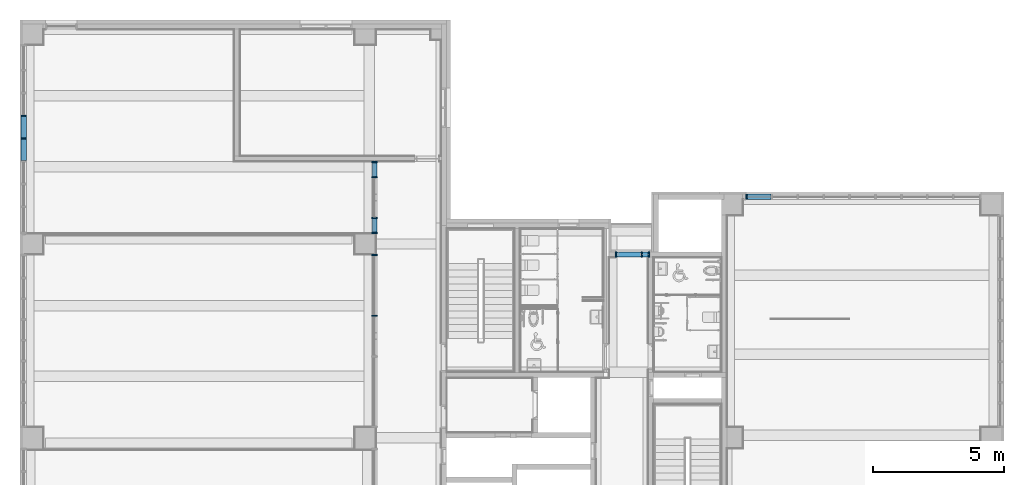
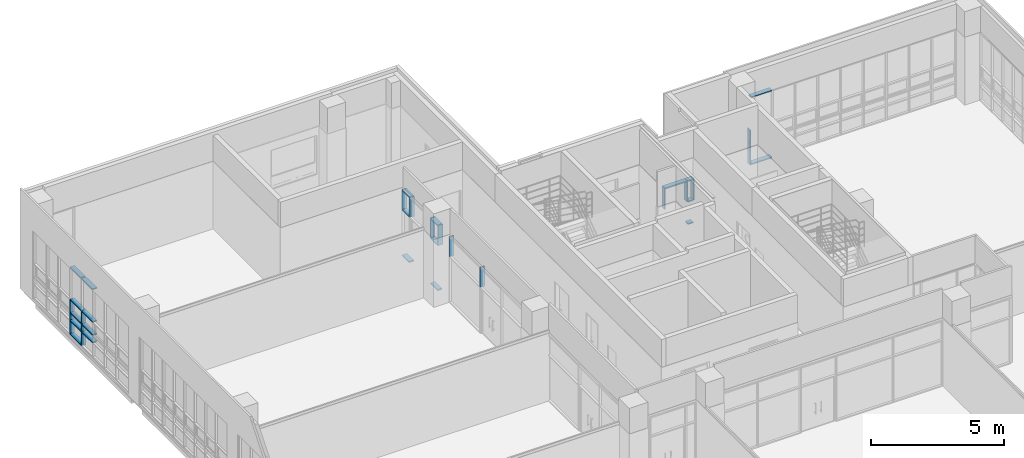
# One storey, part 21 of 74: 39 members, 5 elements without a shape of their own.
"""IFC2X3 building model written with IfcOpenShell, lengths in millimetres."""

from ifc_helpers import new_model, entity, si_unit, converted_unit, derived_unit, direction, frame, origin, origin_2d_with_axis, place, context, subcontext, project, spatial, rectangle, extrude, source, transform, mapped, material, type_object, type_shapes, element, aggregate, save


model = new_model("IFC2X3")

# Units and contexts
model_context = context("Model", 3, precision=0.01, world=origin(), true_north=direction((6.123031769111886e-17, 1.0)))
body_context = subcontext(model_context, "Body", "Model", "MODEL_VIEW")
ifc_project = project(units=[si_unit("LENGTHUNIT", "METRE", prefix="MILLI"), si_unit("AREAUNIT", "SQUARE_METRE"), si_unit("VOLUMEUNIT", "CUBIC_METRE"), converted_unit("PLANEANGLEUNIT", "DEGREE", entity("IfcRatioMeasure", 0.017453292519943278), si_unit("PLANEANGLEUNIT", "RADIAN"), dimensions=[0, 0, 0, 0, 0, 0, 0]), si_unit("MASSUNIT", "GRAM", prefix="KILO"), derived_unit("MASSDENSITYUNIT", [(si_unit("MASSUNIT", "GRAM", prefix="KILO"), 1), (si_unit("LENGTHUNIT", "METRE"), -3)]), derived_unit("MOMENTOFINERTIAUNIT", [(si_unit("LENGTHUNIT", "METRE"), 4)]), si_unit("TIMEUNIT", "SECOND"), si_unit("FREQUENCYUNIT", "HERTZ"), si_unit("THERMODYNAMICTEMPERATUREUNIT", "DEGREE_CELSIUS"), derived_unit("THERMALTRANSMITTANCEUNIT", [(si_unit("MASSUNIT", "GRAM", prefix="KILO"), 1), (si_unit("THERMODYNAMICTEMPERATUREUNIT", "KELVIN"), -1), (si_unit("TIMEUNIT", "SECOND"), -3)]), derived_unit("VOLUMETRICFLOWRATEUNIT", [(si_unit("LENGTHUNIT", "METRE"), 3), (si_unit("TIMEUNIT", "SECOND"), -1)]), derived_unit("MASSFLOWRATEUNIT", [(si_unit("MASSUNIT", "GRAM", prefix="KILO"), 1), (si_unit("TIMEUNIT", "SECOND"), -1)]), derived_unit("ROTATIONALFREQUENCYUNIT", [(si_unit("TIMEUNIT", "SECOND"), -1)]), si_unit("ELECTRICCURRENTUNIT", "AMPERE"), si_unit("ELECTRICVOLTAGEUNIT", "VOLT"), si_unit("POWERUNIT", "WATT"), si_unit("FORCEUNIT", "NEWTON", prefix="KILO"), si_unit("ILLUMINANCEUNIT", "LUX"), si_unit("LUMINOUSFLUXUNIT", "LUMEN"), si_unit("LUMINOUSINTENSITYUNIT", "CANDELA"), derived_unit("USERDEFINED", [(si_unit("MASSUNIT", "GRAM", prefix="KILO"), -1), (si_unit("LENGTHUNIT", "METRE"), -2), (si_unit("TIMEUNIT", "SECOND"), 3), (si_unit("LUMINOUSFLUXUNIT", "LUMEN"), 1)]), derived_unit("SOUNDPOWERUNIT", [(si_unit("MASSUNIT", "GRAM", prefix="KILO"), 1), (si_unit("LENGTHUNIT", "METRE"), 2), (si_unit("TIMEUNIT", "SECOND"), -3)]), derived_unit("SOUNDPRESSUREUNIT", [(si_unit("MASSUNIT", "GRAM", prefix="KILO"), 1), (si_unit("LENGTHUNIT", "METRE"), -1), (si_unit("TIMEUNIT", "SECOND"), -2)]), derived_unit("LINEARVELOCITYUNIT", [(si_unit("LENGTHUNIT", "METRE"), 1), (si_unit("TIMEUNIT", "SECOND"), -1)]), si_unit("PRESSUREUNIT", "PASCAL"), derived_unit("USERDEFINED", [(si_unit("LENGTHUNIT", "METRE"), -2), (si_unit("MASSUNIT", "GRAM", prefix="KILO"), 1), (si_unit("TIMEUNIT", "SECOND"), -2)]), derived_unit("LINEARFORCEUNIT", [(si_unit("MASSUNIT", "GRAM", prefix="KILO"), 1), (si_unit("LENGTHUNIT", "METRE"), 1), (si_unit("TIMEUNIT", "SECOND"), -2), (si_unit("LENGTHUNIT", "METRE"), -1)]), derived_unit("PLANARFORCEUNIT", [(si_unit("MASSUNIT", "GRAM", prefix="KILO"), 1), (si_unit("LENGTHUNIT", "METRE"), 1), (si_unit("TIMEUNIT", "SECOND"), -2), (si_unit("LENGTHUNIT", "METRE"), -2)])], contexts=[model_context])

# Site, building, storey
site_placement = place(None, frame((-14167.972527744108, -657.2125860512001, 0.0)))
site = spatial("IfcSite", under=ifc_project, at=site_placement, Name="Default", CompositionType="ELEMENT")
building_placement = place(site_placement, origin())
building = spatial("IfcBuilding", under=site, at=building_placement, Name="Sample Building", CompositionType="ELEMENT")
storey_placement = place(building_placement, frame((0.0, 0.0, 4800.0)))
storey = spatial("IfcBuildingStorey", under=building, at=storey_placement, Name="지상 2층", CompositionType="ELEMENT", Elevation=4800.000000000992)

# Curtain wall, members
curtain_wall_type = type_object("IfcCurtainWallType", Name="커튼월:CW112-스테인리스 스틸 커튼월", PredefinedType="NOTDEFINED")
curtain_wall_1_placement = place(storey_placement, frame((0.0, 0.0, -4800.0)))
curtain_wall_1 = element("IfcCurtainWall", 1, at=curtain_wall_1_placement, inside=storey, type_object=curtain_wall_type, Name="커튼월:CW112-스테인리스 스틸 커튼월", ObjectType="커튼월:CW112-스테인리스 스틸 커튼월")
ifc_material = material(Name="<Unnamed>")
member_type_1 = type_object("IfcMemberType", Name="직사각형 멀리언:CW200-직사각형 멀리언 50x200mm", PredefinedType="MULLION", material=ifc_material)
shared_shape_1 = source(origin(), body_context, "Body", "SweptSolid", [
    extrude(rectangle(XDim=200.0, YDim=50.0, at=origin_2d_with_axis()), frame((-25.0, 0.0, -925.0), z_axis=(0.0, 0.0, 1.0), x_axis=(0.0, -1.0, 0.0)), (0.0, 0.0, 1.0), 924.9999999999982),
])
type_shapes(member_type_1, [shared_shape_1])
member_1_placement = place(curtain_wall_1_placement, frame((37692.963798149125, 26957.212295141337, 6900.0), z_axis=(1.0, 0.0, 0.0), x_axis=(0.0, 0.0, 1.0)))
member_1 = element("IfcMember", 2, at=member_1_placement, type_object=member_type_1, material=ifc_material, Name="직사각형 멀리언:CW200-직사각형 멀리언 50x200mm", ObjectType="직사각형 멀리언:CW200-직사각형 멀리언 50x200mm", context=body_context, shape_type="MappedRepresentation", body=[
    mapped(shared_shape_1, transform((0.0, 0.0, 0.0), scale=1.0)),
])
member_type_2 = type_object("IfcMemberType", Name="직사각형 멀리언:CW200-직사각형 멀리언 50x200mm", PredefinedType="MULLION", material=ifc_material)
shared_shape_2 = source(origin(), body_context, "Body", "SweptSolid", [
    extrude(rectangle(XDim=200.0, YDim=50.0, at=origin_2d_with_axis()), frame((-25.0, 0.0, -970.0), z_axis=(0.0, 0.0, 1.0), x_axis=(0.0, -1.0, 0.0)), (0.0, 0.0, 1.0), 970.0000000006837),
])
type_shapes(member_type_2, [shared_shape_2])
member_2_placement = place(curtain_wall_1_placement, frame((36717.963798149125, 26957.21229514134, 6900.0), z_axis=(0.0, 0.0, 1.0), x_axis=(-1.0, 0.0, 0.0)))
member_2 = element("IfcMember", 3, at=member_2_placement, type_object=member_type_2, material=ifc_material, Name="직사각형 멀리언:CW200-직사각형 멀리언 50x200mm", ObjectType="직사각형 멀리언:CW200-직사각형 멀리언 50x200mm", context=body_context, shape_type="MappedRepresentation", body=[
    mapped(shared_shape_2, transform((0.0, 0.0, 0.0), scale=1.0)),
])
member_type_3 = type_object("IfcMemberType", Name="직사각형 멀리언:CW200-직사각형 멀리언 50x200mm", PredefinedType="MULLION", material=ifc_material)
shared_shape_3 = source(origin(), body_context, "Body", "SweptSolid", [
    extrude(rectangle(XDim=200.0, YDim=50.0, at=origin_2d_with_axis()), frame((-25.0, 0.0, -970.0), z_axis=(0.0, 0.0, 1.0), x_axis=(0.0, -1.0, 0.0)), (0.0, 0.0, 1.0), 970.0000000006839),
])
type_shapes(member_type_3, [shared_shape_3])
member_3_placement = place(curtain_wall_1_placement, frame((38017.97249112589, 26957.212295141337, 5930.0), z_axis=(0.0, 0.0, -1.0), x_axis=(1.0, 0.0, 0.0)))
member_3 = element("IfcMember", 4, at=member_3_placement, type_object=member_type_3, material=ifc_material, Name="직사각형 멀리언:CW200-직사각형 멀리언 50x200mm", ObjectType="직사각형 멀리언:CW200-직사각형 멀리언 50x200mm", context=body_context, shape_type="MappedRepresentation", body=[
    mapped(shared_shape_3, transform((0.0, 0.0, 0.0), scale=1.0)),
])
member_type_4 = type_object("IfcMemberType", Name="직사각형 멀리언:CW200-직사각형 멀리언 50x200mm", PredefinedType="MULLION", material=ifc_material)
shared_shape_4 = source(origin(), body_context, "Body", "SweptSolid", [
    extrude(rectangle(XDim=200.0, YDim=50.0, at=origin_2d_with_axis()), frame((0.0, 0.0, -970.0), z_axis=(0.0, 0.0, 1.0), x_axis=(0.0, -1.0, 0.0)), (0.0, 0.0, 1.0), 970.0000000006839),
])
type_shapes(member_type_4, [shared_shape_4])
member_4_placement = place(curtain_wall_1_placement, frame((37717.963798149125, 26957.212295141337, 5930.0), z_axis=(0.0, 0.0, -1.0), x_axis=(1.0, 0.0, 0.0)))
member_4 = element("IfcMember", 5, at=member_4_placement, type_object=member_type_4, material=ifc_material, Name="직사각형 멀리언:CW200-직사각형 멀리언 50x200mm", ObjectType="직사각형 멀리언:CW200-직사각형 멀리언 50x200mm", context=body_context, shape_type="MappedRepresentation", body=[
    mapped(shared_shape_4, transform((0.0, 0.0, 0.0), scale=1.0)),
])

curtain_wall_2_placement = place(storey_placement, frame((0.0, 0.0, -4800.0)))
curtain_wall_2 = element("IfcCurtainWall", 6, at=curtain_wall_2_placement, inside=storey, type_object=curtain_wall_type, Name="커튼월:CW112-스테인리스 스틸 커튼월", ObjectType="커튼월:CW112-스테인리스 스틸 커튼월")
member_type_5 = type_object("IfcMemberType", Name="직사각형 멀리언:CW200-직사각형 멀리언 50x200mm", PredefinedType="MULLION", material=ifc_material)
shared_shape_5 = source(origin(), body_context, "Body", "SweptSolid", [
    extrude(rectangle(XDim=200.0, YDim=50.0, at=origin_2d_with_axis()), frame((-25.0, 0.0, -818.7500000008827), z_axis=(0.0, 0.0, 1.0), x_axis=(0.0, -1.0, 0.0)), (0.0, 0.0, 1.0), 818.7500000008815),
])
type_shapes(member_type_5, [shared_shape_5])
member_5_placement = place(curtain_wall_2_placement, frame((14130.455105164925, 32225.962275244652, 4880.0), z_axis=(0.0, 1.0, 0.0), x_axis=(0.0, 0.0, -1.0)))
member_5 = element("IfcMember", 7, at=member_5_placement, type_object=member_type_5, material=ifc_material, Name="직사각형 멀리언:CW200-직사각형 멀리언 50x200mm", ObjectType="직사각형 멀리언:CW200-직사각형 멀리언 50x200mm", context=body_context, shape_type="MappedRepresentation", body=[
    mapped(shared_shape_5, transform((0.0, 0.0, 0.0), scale=1.0)),
])
member_type_6 = type_object("IfcMemberType", Name="직사각형 멀리언:CW200-직사각형 멀리언 50x200mm", PredefinedType="MULLION", material=ifc_material)
shared_shape_6 = source(origin(), body_context, "Body", "SweptSolid", [
    extrude(rectangle(XDim=200.0, YDim=50.0, at=origin_2d_with_axis()), frame((0.0, 0.0, -650.0), z_axis=(0.0, 0.0, 1.0), x_axis=(0.0, -1.0, 0.0)), (0.0, 0.0, 1.0), 650.0000000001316),
])
type_shapes(member_type_6, [shared_shape_6])
member_6_placement = place(curtain_wall_2_placement, frame((14130.455105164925, 32250.96227524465, 4880.0), z_axis=(0.0, 0.0, -1.0), x_axis=(0.0, -1.0, 0.0)))
member_6 = element("IfcMember", 8, at=member_6_placement, type_object=member_type_6, material=ifc_material, Name="직사각형 멀리언:CW200-직사각형 멀리언 50x200mm", ObjectType="직사각형 멀리언:CW200-직사각형 멀리언 50x200mm", context=body_context, shape_type="MappedRepresentation", body=[
    mapped(shared_shape_6, transform((0.0, 0.0, 0.0), scale=1.0)),
])
member_7_placement = place(curtain_wall_2_placement, frame((14130.455105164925, 31382.212275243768, 4880.0), z_axis=(0.0, 0.0, -1.0), x_axis=(0.0, -1.0, 0.0)))
member_7 = element("IfcMember", 9, at=member_7_placement, type_object=member_type_6, material=ifc_material, Name="직사각형 멀리언:CW200-직사각형 멀리언 50x200mm", ObjectType="직사각형 멀리언:CW200-직사각형 멀리언 50x200mm", context=body_context, shape_type="MappedRepresentation", body=[
    mapped(shared_shape_6, transform((0.0, 0.0, 0.0), scale=1.0)),
])
member_type_7 = type_object("IfcMemberType", Name="직사각형 멀리언:CW200-직사각형 멀리언 50x200mm", PredefinedType="MULLION", material=ifc_material)
shared_shape_7 = source(origin(), body_context, "Body", "SweptSolid", [
    extrude(rectangle(XDim=200.0, YDim=50.0, at=origin_2d_with_axis()), frame((-25.0, 0.0, -818.7500000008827), z_axis=(0.0, 0.0, 1.0), x_axis=(0.0, -1.0, 0.0)), (0.0, 0.0, 1.0), 818.7500000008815),
])
type_shapes(member_type_7, [shared_shape_7])
member_8_placement = place(curtain_wall_2_placement, frame((14130.455105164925, 31407.212275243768, 8000.0), z_axis=(0.0, -1.0, 0.0), x_axis=(0.0, 0.0, 1.0)))
member_8 = element("IfcMember", 10, at=member_8_placement, type_object=member_type_7, material=ifc_material, Name="직사각형 멀리언:CW200-직사각형 멀리언 50x200mm", ObjectType="직사각형 멀리언:CW200-직사각형 멀리언 50x200mm", context=body_context, shape_type="MappedRepresentation", body=[
    mapped(shared_shape_7, transform((0.0, 0.0, 0.0), scale=1.0)),
])
member_9_placement = place(curtain_wall_2_placement, frame((14130.455105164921, 30538.462275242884, 8000.0), z_axis=(0.0, -1.0, 0.0), x_axis=(0.0, 0.0, 1.0)))
member_9 = element("IfcMember", 11, at=member_9_placement, type_object=member_type_7, material=ifc_material, Name="직사각형 멀리언:CW200-직사각형 멀리언 50x200mm", ObjectType="직사각형 멀리언:CW200-직사각형 멀리언 50x200mm", context=body_context, shape_type="MappedRepresentation", body=[
    mapped(shared_shape_7, transform((0.0, 0.0, 0.0), scale=1.0)),
])
member_type_8 = type_object("IfcMemberType", Name="직사각형 멀리언:CW200-직사각형 멀리언 50x200mm", PredefinedType="MULLION", material=ifc_material)
shared_shape_8 = source(origin(), body_context, "Body", "SweptSolid", [
    extrude(rectangle(XDim=200.0, YDim=50.0, at=origin_2d_with_axis()), frame((0.0, 0.0, -818.7500000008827), z_axis=(0.0, 0.0, 1.0), x_axis=(0.0, -1.0, 0.0)), (0.0, 0.0, 1.0), 818.7500000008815),
])
type_shapes(member_type_8, [shared_shape_8])
member_10_placement = place(curtain_wall_2_placement, frame((14130.455105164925, 31407.212275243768, 5880.0), z_axis=(0.0, -1.0, 0.0), x_axis=(0.0, 0.0, 1.0)))
member_10 = element("IfcMember", 12, at=member_10_placement, type_object=member_type_8, material=ifc_material, Name="직사각형 멀리언:CW200-직사각형 멀리언 50x200mm", ObjectType="직사각형 멀리언:CW200-직사각형 멀리언 50x200mm", context=body_context, shape_type="MappedRepresentation", body=[
    mapped(shared_shape_8, transform((0.0, 0.0, 0.0), scale=1.0)),
])
member_11_placement = place(curtain_wall_2_placement, frame((14130.455105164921, 30538.462275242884, 5880.0), z_axis=(0.0, -1.0, 0.0), x_axis=(0.0, 0.0, 1.0)))
member_11 = element("IfcMember", 13, at=member_11_placement, type_object=member_type_8, material=ifc_material, Name="직사각형 멀리언:CW200-직사각형 멀리언 50x200mm", ObjectType="직사각형 멀리언:CW200-직사각형 멀리언 50x200mm", context=body_context, shape_type="MappedRepresentation", body=[
    mapped(shared_shape_8, transform((0.0, 0.0, 0.0), scale=1.0)),
])
member_12_placement = place(curtain_wall_2_placement, frame((14130.455105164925, 31407.212275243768, 6480.0), z_axis=(0.0, -1.0, 0.0), x_axis=(0.0, 0.0, 1.0)))
member_12 = element("IfcMember", 14, at=member_12_placement, type_object=member_type_8, material=ifc_material, Name="직사각형 멀리언:CW200-직사각형 멀리언 50x200mm", ObjectType="직사각형 멀리언:CW200-직사각형 멀리언 50x200mm", context=body_context, shape_type="MappedRepresentation", body=[
    mapped(shared_shape_8, transform((0.0, 0.0, 0.0), scale=1.0)),
])
member_13_placement = place(curtain_wall_2_placement, frame((14130.455105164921, 30538.462275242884, 6480.0), z_axis=(0.0, -1.0, 0.0), x_axis=(0.0, 0.0, 1.0)))
member_13 = element("IfcMember", 15, at=member_13_placement, type_object=member_type_8, material=ifc_material, Name="직사각형 멀리언:CW200-직사각형 멀리언 50x200mm", ObjectType="직사각형 멀리언:CW200-직사각형 멀리언 50x200mm", context=body_context, shape_type="MappedRepresentation", body=[
    mapped(shared_shape_8, transform((0.0, 0.0, 0.0), scale=1.0)),
])
member_14_placement = place(curtain_wall_2_placement, frame((14130.455105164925, 31407.212275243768, 5530.0), z_axis=(0.0, -1.0, 0.0), x_axis=(0.0, 0.0, 1.0)))
member_14 = element("IfcMember", 16, at=member_14_placement, type_object=member_type_8, material=ifc_material, Name="직사각형 멀리언:CW200-직사각형 멀리언 50x200mm", ObjectType="직사각형 멀리언:CW200-직사각형 멀리언 50x200mm", context=body_context, shape_type="MappedRepresentation", body=[
    mapped(shared_shape_8, transform((0.0, 0.0, 0.0), scale=1.0)),
])
member_15_placement = place(curtain_wall_2_placement, frame((14130.455105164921, 30538.462275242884, 5530.0), z_axis=(0.0, -1.0, 0.0), x_axis=(0.0, 0.0, 1.0)))
member_15 = element("IfcMember", 17, at=member_15_placement, type_object=member_type_8, material=ifc_material, Name="직사각형 멀리언:CW200-직사각형 멀리언 50x200mm", ObjectType="직사각형 멀리언:CW200-직사각형 멀리언 50x200mm", context=body_context, shape_type="MappedRepresentation", body=[
    mapped(shared_shape_8, transform((0.0, 0.0, 0.0), scale=1.0)),
])
member_type_9 = type_object("IfcMemberType", Name="직사각형 멀리언:CW200-직사각형 멀리언 50x200mm", PredefinedType="MULLION", material=ifc_material)
shared_shape_9 = source(origin(), body_context, "Body", "SweptSolid", [
    extrude(rectangle(XDim=200.0, YDim=50.0, at=origin_2d_with_axis()), frame((0.0, 0.0, -600.0), z_axis=(0.0, 0.0, 1.0), x_axis=(0.0, -1.0, 0.0)), (0.0, 0.0, 1.0), 600.0),
])
type_shapes(member_type_9, [shared_shape_9])
member_16_placement = place(curtain_wall_2_placement, frame((14130.455105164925, 32250.96227524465, 5880.0), z_axis=(0.0, 0.0, -1.0), x_axis=(0.0, -1.0, 0.0)))
member_16 = element("IfcMember", 18, at=member_16_placement, type_object=member_type_9, material=ifc_material, Name="직사각형 멀리언:CW200-직사각형 멀리언 50x200mm", ObjectType="직사각형 멀리언:CW200-직사각형 멀리언 50x200mm", context=body_context, shape_type="MappedRepresentation", body=[
    mapped(shared_shape_9, transform((0.0, 0.0, 0.0), scale=1.0)),
])
member_17_placement = place(curtain_wall_2_placement, frame((14130.455105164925, 31382.212275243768, 5880.0), z_axis=(0.0, 0.0, -1.0), x_axis=(0.0, -1.0, 0.0)))
member_17 = element("IfcMember", 19, at=member_17_placement, type_object=member_type_9, material=ifc_material, Name="직사각형 멀리언:CW200-직사각형 멀리언 50x200mm", ObjectType="직사각형 멀리언:CW200-직사각형 멀리언 50x200mm", context=body_context, shape_type="MappedRepresentation", body=[
    mapped(shared_shape_9, transform((0.0, 0.0, 0.0), scale=1.0)),
])
member_type_10 = type_object("IfcMemberType", Name="직사각형 멀리언:CW200-직사각형 멀리언 50x200mm", PredefinedType="MULLION", material=ifc_material)
shared_shape_10 = source(origin(), body_context, "Body", "SweptSolid", [
    extrude(rectangle(XDim=200.0, YDim=50.0, at=origin_2d_with_axis()), frame((0.0, 0.0, -350.0), z_axis=(0.0, 0.0, 1.0), x_axis=(0.0, -1.0, 0.0)), (0.0, 0.0, 1.0), 350.00000000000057),
])
type_shapes(member_type_10, [shared_shape_10])
member_18_placement = place(curtain_wall_2_placement, frame((14130.455105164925, 32250.96227524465, 5530.0), z_axis=(0.0, 0.0, -1.0), x_axis=(0.0, -1.0, 0.0)))
member_18 = element("IfcMember", 20, at=member_18_placement, type_object=member_type_10, material=ifc_material, Name="직사각형 멀리언:CW200-직사각형 멀리언 50x200mm", ObjectType="직사각형 멀리언:CW200-직사각형 멀리언 50x200mm", context=body_context, shape_type="MappedRepresentation", body=[
    mapped(shared_shape_10, transform((0.0, 0.0, 0.0), scale=1.0)),
])
member_19_placement = place(curtain_wall_2_placement, frame((14130.455105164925, 31382.212275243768, 5530.0), z_axis=(0.0, 0.0, -1.0), x_axis=(0.0, -1.0, 0.0)))
member_19 = element("IfcMember", 21, at=member_19_placement, type_object=member_type_10, material=ifc_material, Name="직사각형 멀리언:CW200-직사각형 멀리언 50x200mm", ObjectType="직사각형 멀리언:CW200-직사각형 멀리언 50x200mm", context=body_context, shape_type="MappedRepresentation", body=[
    mapped(shared_shape_10, transform((0.0, 0.0, 0.0), scale=1.0)),
])
aggregate(curtain_wall_2, [member_5, member_6, member_8, member_7, member_9, member_10, member_11, member_12, member_13, member_16, member_17, member_14, member_15, member_18, member_19])

curtain_wall_3_placement = place(storey_placement, frame((0.0, 0.0, -4800.0)))
curtain_wall_3 = element("IfcCurtainWall", 22, at=curtain_wall_3_placement, inside=storey, type_object=curtain_wall_type, Name="커튼월:CW112-스테인리스 스틸 커튼월", ObjectType="커튼월:CW112-스테인리스 스틸 커튼월")
member_type_11 = type_object("IfcMemberType", Name="직사각형 멀리언:CW200-직사각형 멀리언 50x200mm", PredefinedType="MULLION", material=ifc_material)
shared_shape_11 = source(origin(), body_context, "Body", "SweptSolid", [
    extrude(rectangle(XDim=200.0, YDim=50.0, at=origin_2d_with_axis()), frame((-25.0, 0.0, -650.0), z_axis=(0.0, 0.0, 1.0), x_axis=(0.0, -1.0, 0.0)), (0.0, 0.0, 1.0), 650.0000000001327),
])
type_shapes(member_type_11, [shared_shape_11])
member_20_placement = place(curtain_wall_3_placement, frame((41697.546658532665, 29157.212295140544, 4880.0), z_axis=(0.0, 0.0, -1.0), x_axis=(-1.0, 0.0, 0.0)))
member_20 = element("IfcMember", 23, at=member_20_placement, type_object=member_type_11, material=ifc_material, Name="직사각형 멀리언:CW200-직사각형 멀리언 50x200mm", ObjectType="직사각형 멀리언:CW200-직사각형 멀리언 50x200mm", context=body_context, shape_type="MappedRepresentation", body=[
    mapped(shared_shape_11, transform((0.0, 0.0, 0.0), scale=1.0)),
])
member_type_12 = type_object("IfcMemberType", Name="직사각형 멀리언:CW200-직사각형 멀리언 50x200mm", PredefinedType="MULLION", material=ifc_material)
shared_shape_12 = source(origin(), body_context, "Body", "SweptSolid", [
    extrude(rectangle(XDim=200.0, YDim=50.0, at=origin_2d_with_axis()), frame((-25.0, 0.0, -600.0), z_axis=(0.0, 0.0, 1.0), x_axis=(0.0, -1.0, 0.0)), (0.0, 0.0, 1.0), 600.0),
])
type_shapes(member_type_12, [shared_shape_12])
member_21_placement = place(curtain_wall_3_placement, frame((41697.546658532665, 29157.212295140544, 5880.0), z_axis=(0.0, 0.0, -1.0), x_axis=(-1.0, 0.0, 0.0)))
member_21 = element("IfcMember", 24, at=member_21_placement, type_object=member_type_12, material=ifc_material, Name="직사각형 멀리언:CW200-직사각형 멀리언 50x200mm", ObjectType="직사각형 멀리언:CW200-직사각형 멀리언 50x200mm", context=body_context, shape_type="MappedRepresentation", body=[
    mapped(shared_shape_12, transform((0.0, 0.0, 0.0), scale=1.0)),
])
member_type_13 = type_object("IfcMemberType", Name="직사각형 멀리언:CW200-직사각형 멀리언 50x200mm", PredefinedType="MULLION", material=ifc_material)
shared_shape_13 = source(origin(), body_context, "Body", "SweptSolid", [
    extrude(rectangle(XDim=200.0, YDim=50.0, at=origin_2d_with_axis()), frame((-25.0, 0.0, -350.0), z_axis=(0.0, 0.0, 1.0), x_axis=(0.0, -1.0, 0.0)), (0.0, 0.0, 1.0), 349.9999999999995),
])
type_shapes(member_type_13, [shared_shape_13])
member_22_placement = place(curtain_wall_3_placement, frame((41697.546658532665, 29157.212295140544, 5530.0), z_axis=(0.0, 0.0, -1.0), x_axis=(-1.0, 0.0, 0.0)))
member_22 = element("IfcMember", 25, at=member_22_placement, type_object=member_type_13, material=ifc_material, Name="직사각형 멀리언:CW200-직사각형 멀리언 50x200mm", ObjectType="직사각형 멀리언:CW200-직사각형 멀리언 50x200mm", context=body_context, shape_type="MappedRepresentation", body=[
    mapped(shared_shape_13, transform((0.0, 0.0, 0.0), scale=1.0)),
])
member_type_14 = type_object("IfcMemberType", Name="직사각형 멀리언:CW200-직사각형 멀리언 50x200mm", PredefinedType="MULLION", material=ifc_material)
shared_shape_14 = source(origin(), body_context, "Body", "SweptSolid", [
    extrude(rectangle(XDim=200.0, YDim=50.0, at=origin_2d_with_axis()), frame((-25.0, 0.0, -913.8888888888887), z_axis=(0.0, 0.0, 1.0), x_axis=(0.0, -1.0, 0.0)), (0.0, 0.0, 1.0), 913.8888888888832),
])
type_shapes(member_type_14, [shared_shape_14])
member_23_placement = place(curtain_wall_3_placement, frame((41747.546658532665, 29157.212295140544, 8000.0), z_axis=(-1.0, 0.0, 0.0), x_axis=(0.0, 0.0, 1.0)))
member_23 = element("IfcMember", 26, at=member_23_placement, type_object=member_type_14, material=ifc_material, Name="직사각형 멀리언:CW200-직사각형 멀리언 50x200mm", ObjectType="직사각형 멀리언:CW200-직사각형 멀리언 50x200mm", context=body_context, shape_type="MappedRepresentation", body=[
    mapped(shared_shape_14, transform((0.0, 0.0, 0.0), scale=1.0)),
])
member_type_15 = type_object("IfcMemberType", Name="직사각형 멀리언:CW200-직사각형 멀리언 50x200mm", PredefinedType="MULLION", material=ifc_material)
shared_shape_15 = source(origin(), body_context, "Body", "SweptSolid", [
    extrude(rectangle(XDim=200.0, YDim=50.0, at=origin_2d_with_axis()), frame((-25.0, 0.0, -913.888888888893), z_axis=(0.0, 0.0, 1.0), x_axis=(0.0, -1.0, 0.0)), (0.0, 0.0, 1.0), 913.888888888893),
])
type_shapes(member_type_15, [shared_shape_15])
member_24_placement = place(curtain_wall_3_placement, frame((42661.43554742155, 29157.21229514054, 4880.0), z_axis=(1.0, 0.0, 0.0), x_axis=(0.0, 0.0, -1.0)))
member_24 = element("IfcMember", 27, at=member_24_placement, type_object=member_type_15, material=ifc_material, Name="직사각형 멀리언:CW200-직사각형 멀리언 50x200mm", ObjectType="직사각형 멀리언:CW200-직사각형 멀리언 50x200mm", context=body_context, shape_type="MappedRepresentation", body=[
    mapped(shared_shape_15, transform((0.0, 0.0, 0.0), scale=1.0)),
])
aggregate(curtain_wall_3, [member_23, member_20, member_24, member_21, member_22])

curtain_wall_4_placement = place(storey_placement, frame((0.0, 0.0, -4800.0)))
curtain_wall_4 = element("IfcCurtainWall", 28, at=curtain_wall_4_placement, inside=storey, type_object=curtain_wall_type, Name="커튼월:CW112-스테인리스 스틸 커튼월", ObjectType="커튼월:CW112-스테인리스 스틸 커튼월")
member_type_16 = type_object("IfcMemberType", Name="직사각형 멀리언:CW200-직사각형 멀리언 50x200mm", PredefinedType="MULLION", material=ifc_material)
shared_shape_16 = source(origin(), body_context, "Body", "SweptSolid", [
    extrude(rectangle(XDim=200.0, YDim=50.0, at=origin_2d_with_axis()), frame((-25.0, 0.0, -520.0002780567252), z_axis=(0.0, 0.0, 1.0), x_axis=(0.0, -1.0, 0.0)), (0.0, 0.0, 1.0), 520.0002780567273),
])
type_shapes(member_type_16, [shared_shape_16])
member_25_placement = place(curtain_wall_4_placement, frame((27522.98031454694, 27807.212586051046, 7900.0), z_axis=(0.0, -1.0, 0.0), x_axis=(0.0, 0.0, 1.0)))
member_25 = element("IfcMember", 29, at=member_25_placement, type_object=member_type_16, material=ifc_material, Name="직사각형 멀리언:CW200-직사각형 멀리언 50x200mm", ObjectType="직사각형 멀리언:CW200-직사각형 멀리언 50x200mm", context=body_context, shape_type="MappedRepresentation", body=[
    mapped(shared_shape_16, transform((0.0, 0.0, 0.0), scale=1.0)),
])
member_type_17 = type_object("IfcMemberType", Name="직사각형 멀리언:CW200-직사각형 멀리언 50x200mm", PredefinedType="MULLION", material=ifc_material)
shared_shape_17 = source(origin(), body_context, "Body", "SweptSolid", [
    extrude(rectangle(XDim=200.0, YDim=50.0, at=origin_2d_with_axis()), frame((-25.0, 0.0, -525.0), z_axis=(0.0, 0.0, 1.0), x_axis=(0.0, -1.0, 0.0)), (0.0, 0.0, 1.0), 524.9999999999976),
])
type_shapes(member_type_17, [shared_shape_17])
member_26_placement = place(curtain_wall_4_placement, frame((27522.980314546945, 30457.212275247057, 4880.0), z_axis=(0.0, 1.0, 0.0), x_axis=(0.0, 0.0, -1.0)))
member_26 = element("IfcMember", 30, at=member_26_placement, type_object=member_type_17, material=ifc_material, Name="직사각형 멀리언:CW200-직사각형 멀리언 50x200mm", ObjectType="직사각형 멀리언:CW200-직사각형 멀리언 50x200mm", context=body_context, shape_type="MappedRepresentation", body=[
    mapped(shared_shape_17, transform((0.0, 0.0, 0.0), scale=1.0)),
])
member_type_18 = type_object("IfcMemberType", Name="직사각형 멀리언:CW200-직사각형 멀리언 50x200mm", PredefinedType="MULLION", material=ifc_material)
shared_shape_18 = source(origin(), body_context, "Body", "SweptSolid", [
    extrude(rectangle(XDim=200.0, YDim=50.0, at=origin_2d_with_axis()), frame((0.0, 0.0, -525.0), z_axis=(0.0, 0.0, 1.0), x_axis=(0.0, -1.0, 0.0)), (0.0, 0.0, 1.0), 524.9999999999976),
])
type_shapes(member_type_18, [shared_shape_18])
member_27_placement = place(curtain_wall_4_placement, frame((27522.980314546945, 29932.21227524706, 6980.0), z_axis=(0.0, -1.0, 0.0), x_axis=(0.0, 0.0, 1.0)))
member_27 = element("IfcMember", 31, at=member_27_placement, type_object=member_type_18, material=ifc_material, Name="직사각형 멀리언:CW200-직사각형 멀리언 50x200mm", ObjectType="직사각형 멀리언:CW200-직사각형 멀리언 50x200mm", context=body_context, shape_type="MappedRepresentation", body=[
    mapped(shared_shape_18, transform((0.0, 0.0, 0.0), scale=1.0)),
])
member_type_19 = type_object("IfcMemberType", Name="직사각형 멀리언:CW200-직사각형 멀리언 50x200mm", PredefinedType="MULLION", material=ifc_material)
shared_shape_19 = source(origin(), body_context, "Body", "SweptSolid", [
    extrude(rectangle(XDim=200.0, YDim=50.0, at=origin_2d_with_axis()), frame((-25.0, 0.0, -525.0), z_axis=(0.0, 0.0, 1.0), x_axis=(0.0, -1.0, 0.0)), (0.0, 0.0, 1.0), 524.9999999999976),
])
type_shapes(member_type_19, [shared_shape_19])
member_28_placement = place(curtain_wall_4_placement, frame((27522.980314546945, 29932.21227524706, 7900.0), z_axis=(0.0, -1.0, 0.0), x_axis=(0.0, 0.0, 1.0)))
member_28 = element("IfcMember", 32, at=member_28_placement, type_object=member_type_19, material=ifc_material, Name="직사각형 멀리언:CW200-직사각형 멀리언 50x200mm", ObjectType="직사각형 멀리언:CW200-직사각형 멀리언 50x200mm", context=body_context, shape_type="MappedRepresentation", body=[
    mapped(shared_shape_19, transform((0.0, 0.0, 0.0), scale=1.0)),
])
member_type_20 = type_object("IfcMemberType", Name="직사각형 멀리언:CW200-직사각형 멀리언 50x200mm", PredefinedType="MULLION", material=ifc_material)
shared_shape_20 = source(origin(), body_context, "Body", "SweptSolid", [
    extrude(rectangle(XDim=200.0, YDim=50.0, at=origin_2d_with_axis()), frame((-25.0, 0.0, -520.0002780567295), z_axis=(0.0, 0.0, 1.0), x_axis=(0.0, -1.0, 0.0)), (0.0, 0.0, 1.0), 520.0002780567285),
])
type_shapes(member_type_20, [shared_shape_20])
member_29_placement = place(curtain_wall_4_placement, frame((27522.98031454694, 28327.21258605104, 4880.0), z_axis=(0.0, 1.0, 0.0), x_axis=(0.0, 0.0, -1.0)))
member_29 = element("IfcMember", 33, at=member_29_placement, type_object=member_type_20, material=ifc_material, Name="직사각형 멀리언:CW200-직사각형 멀리언 50x200mm", ObjectType="직사각형 멀리언:CW200-직사각형 멀리언 50x200mm", context=body_context, shape_type="MappedRepresentation", body=[
    mapped(shared_shape_20, transform((0.0, 0.0, 0.0), scale=1.0)),
])
member_type_21 = type_object("IfcMemberType", Name="직사각형 멀리언:CW200-직사각형 멀리언 50x200mm", PredefinedType="MULLION", material=ifc_material)
shared_shape_21 = source(origin(), body_context, "Body", "SweptSolid", [
    extrude(rectangle(XDim=200.0, YDim=50.0, at=origin_2d_with_axis()), frame((0.0, 0.0, -520.0002780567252), z_axis=(0.0, 0.0, 1.0), x_axis=(0.0, -1.0, 0.0)), (0.0, 0.0, 1.0), 520.0002780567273),
])
type_shapes(member_type_21, [shared_shape_21])
member_30_placement = place(curtain_wall_4_placement, frame((27522.98031454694, 27807.212586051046, 6980.0), z_axis=(0.0, -1.0, 0.0), x_axis=(0.0, 0.0, 1.0)))
member_30 = element("IfcMember", 34, at=member_30_placement, type_object=member_type_21, material=ifc_material, Name="직사각형 멀리언:CW200-직사각형 멀리언 50x200mm", ObjectType="직사각형 멀리언:CW200-직사각형 멀리언 50x200mm", context=body_context, shape_type="MappedRepresentation", body=[
    mapped(shared_shape_21, transform((0.0, 0.0, 0.0), scale=1.0)),
])

# Curtain wall, member
curtain_wall_5_placement = place(storey_placement, frame((0.0, 0.0, -4800.0)))
curtain_wall_5 = element("IfcCurtainWall", 35, at=curtain_wall_5_placement, inside=storey, type_object=curtain_wall_type, Name="커튼월:CW112-스테인리스 스틸 커튼월", ObjectType="커튼월:CW112-스테인리스 스틸 커튼월")
member_type_22 = type_object("IfcMemberType", Name="직사각형 멀리언:CW200-직사각형 멀리언 50x200mm", PredefinedType="MULLION", material=ifc_material)
shared_shape_22 = source(origin(), body_context, "Body", "SweptSolid", [
    extrude(rectangle(XDim=200.0, YDim=50.0, at=origin_2d_with_axis()), frame((-25.0, 0.0, -920.0), z_axis=(0.0, 0.0, 1.0), x_axis=(0.0, -1.0, 0.0)), (0.0, 0.0, 1.0), 920.0000000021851),
])
type_shapes(member_type_22, [shared_shape_22])
member_31_placement = place(curtain_wall_5_placement, frame((27522.955105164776, 26957.21230799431, 7900.0), z_axis=(0.0, 0.0, 1.0), x_axis=(0.0, 1.0, 0.0)))
member_31 = element("IfcMember", 36, at=member_31_placement, type_object=member_type_22, material=ifc_material, Name="직사각형 멀리언:CW200-직사각형 멀리언 50x200mm", ObjectType="직사각형 멀리언:CW200-직사각형 멀리언 50x200mm", context=body_context, shape_type="MappedRepresentation", body=[
    mapped(shared_shape_22, transform((0.0, 0.0, 0.0), scale=1.0)),
])

# Member
member_32_placement = place(curtain_wall_4_placement, frame((27522.980314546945, 30507.21227524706, 7900.0), z_axis=(0.0, 0.0, 1.0), x_axis=(0.0, 1.0, 0.0)))
member_32 = element("IfcMember", 37, at=member_32_placement, type_object=member_type_22, material=ifc_material, Name="직사각형 멀리언:CW200-직사각형 멀리언 50x200mm", ObjectType="직사각형 멀리언:CW200-직사각형 멀리언 50x200mm", context=body_context, shape_type="MappedRepresentation", body=[
    mapped(shared_shape_22, transform((0.0, 0.0, 0.0), scale=1.0)),
])

member_type_23 = type_object("IfcMemberType", Name="직사각형 멀리언:CW200-직사각형 멀리언 50x200mm", PredefinedType="MULLION", material=ifc_material)
shared_shape_23 = source(origin(), body_context, "Body", "SweptSolid", [
    extrude(rectangle(XDim=200.0, YDim=50.0, at=origin_2d_with_axis()), frame((-25.0, 0.0, -920.0), z_axis=(0.0, 0.0, 1.0), x_axis=(0.0, -1.0, 0.0)), (0.0, 0.0, 1.0), 920.0000000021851),
])
type_shapes(member_type_23, [shared_shape_23])
member_33_placement = place(curtain_wall_4_placement, frame((27522.98031454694, 27757.212586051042, 6980.0), z_axis=(0.0, 0.0, -1.0), x_axis=(0.0, -1.0, 0.0)))
member_33 = element("IfcMember", 38, at=member_33_placement, type_object=member_type_23, material=ifc_material, Name="직사각형 멀리언:CW200-직사각형 멀리언 50x200mm", ObjectType="직사각형 멀리언:CW200-직사각형 멀리언 50x200mm", context=body_context, shape_type="MappedRepresentation", body=[
    mapped(shared_shape_23, transform((0.0, 0.0, 0.0), scale=1.0)),
])

member_type_24 = type_object("IfcMemberType", Name="직사각형 멀리언:CW200-직사각형 멀리언 50x200mm", PredefinedType="MULLION", material=ifc_material)
shared_shape_24 = source(origin(), body_context, "Body", "SweptSolid", [
    extrude(rectangle(XDim=200.0, YDim=50.0, at=origin_2d_with_axis()), frame((0.0, 0.0, -920.0), z_axis=(0.0, 0.0, 1.0), x_axis=(0.0, -1.0, 0.0)), (0.0, 0.0, 1.0), 920.0000000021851),
])
type_shapes(member_type_24, [shared_shape_24])
member_34_placement = place(curtain_wall_5_placement, frame((27522.955105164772, 24617.21230799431, 6980.0), z_axis=(0.0, 0.0, -1.0), x_axis=(0.0, -1.0, 0.0)))
member_34 = element("IfcMember", 39, at=member_34_placement, type_object=member_type_24, material=ifc_material, Name="직사각형 멀리언:CW200-직사각형 멀리언 50x200mm", ObjectType="직사각형 멀리언:CW200-직사각형 멀리언 50x200mm", context=body_context, shape_type="MappedRepresentation", body=[
    mapped(shared_shape_24, transform((0.0, 0.0, 0.0), scale=1.0)),
])

aggregate(curtain_wall_5, [member_31, member_34])

member_35_placement = place(curtain_wall_4_placement, frame((27522.980314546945, 29907.21227524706, 6980.0), z_axis=(0.0, 0.0, -1.0), x_axis=(0.0, -1.0, 0.0)))
member_35 = element("IfcMember", 40, at=member_35_placement, type_object=member_type_24, material=ifc_material, Name="직사각형 멀리언:CW200-직사각형 멀리언 50x200mm", ObjectType="직사각형 멀리언:CW200-직사각형 멀리언 50x200mm", context=body_context, shape_type="MappedRepresentation", body=[
    mapped(shared_shape_24, transform((0.0, 0.0, 0.0), scale=1.0)),
])

member_36_placement = place(curtain_wall_4_placement, frame((27522.98031454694, 28352.21258605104, 6980.0), z_axis=(0.0, 0.0, -1.0), x_axis=(0.0, -1.0, 0.0)))
member_36 = element("IfcMember", 41, at=member_36_placement, type_object=member_type_24, material=ifc_material, Name="직사각형 멀리언:CW200-직사각형 멀리언 50x200mm", ObjectType="직사각형 멀리언:CW200-직사각형 멀리언 50x200mm", context=body_context, shape_type="MappedRepresentation", body=[
    mapped(shared_shape_24, transform((0.0, 0.0, 0.0), scale=1.0)),
])

aggregate(curtain_wall_4, [member_25, member_26, member_32, member_33, member_27, member_28, member_35, member_29, member_30, member_36])

member_type_25 = type_object("IfcMemberType", Name="직사각형 멀리언:CW200-직사각형 멀리언 50x200mm", PredefinedType="MULLION", material=ifc_material)
shared_shape_25 = source(origin(), body_context, "Body", "SweptSolid", [
    extrude(rectangle(XDim=200.0, YDim=50.0, at=origin_2d_with_axis()), frame((-25.0, 0.0, -225.00869297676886), z_axis=(0.0, 0.0, 1.0), x_axis=(0.0, -1.0, 0.0)), (0.0, 0.0, 1.0), 225.00869297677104),
])
type_shapes(member_type_25, [shared_shape_25])
member_37_placement = place(curtain_wall_1_placement, frame((37967.97249112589, 26957.212295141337, 6900.0), z_axis=(1.0, 0.0, 0.0), x_axis=(0.0, 0.0, 1.0)))
member_37 = element("IfcMember", 42, at=member_37_placement, type_object=member_type_25, material=ifc_material, Name="직사각형 멀리언:CW200-직사각형 멀리언 50x200mm", ObjectType="직사각형 멀리언:CW200-직사각형 멀리언 50x200mm", context=body_context, shape_type="MappedRepresentation", body=[
    mapped(shared_shape_25, transform((0.0, 0.0, 0.0), scale=1.0)),
])

member_type_26 = type_object("IfcMemberType", Name="직사각형 멀리언:CW200-직사각형 멀리언 50x200mm", PredefinedType="MULLION", material=ifc_material)
shared_shape_26 = source(origin(), body_context, "Body", "SweptSolid", [
    extrude(rectangle(XDim=200.0, YDim=50.0, at=origin_2d_with_axis()), frame((-25.0, 0.0, -225.00869297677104), z_axis=(0.0, 0.0, 1.0), x_axis=(0.0, -1.0, 0.0)), (0.0, 0.0, 1.0), 225.00869297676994),
])
type_shapes(member_type_26, [shared_shape_26])
member_38_placement = place(curtain_wall_1_placement, frame((37742.96379814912, 26957.212295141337, 4880.0), z_axis=(-1.0, 0.0, 0.0), x_axis=(0.0, 0.0, -1.0)))
member_38 = element("IfcMember", 43, at=member_38_placement, type_object=member_type_26, material=ifc_material, Name="직사각형 멀리언:CW200-직사각형 멀리언 50x200mm", ObjectType="직사각형 멀리언:CW200-직사각형 멀리언 50x200mm", context=body_context, shape_type="MappedRepresentation", body=[
    mapped(shared_shape_26, transform((0.0, 0.0, 0.0), scale=1.0)),
])

member_type_27 = type_object("IfcMemberType", Name="직사각형 멀리언:CW200-직사각형 멀리언 50x200mm", PredefinedType="MULLION", material=ifc_material)
shared_shape_27 = source(origin(), body_context, "Body", "SweptSolid", [
    extrude(rectangle(XDim=200.0, YDim=50.0, at=origin_2d_with_axis()), frame((0.0, 0.0, -225.00869297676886), z_axis=(0.0, 0.0, 1.0), x_axis=(0.0, -1.0, 0.0)), (0.0, 0.0, 1.0), 225.00869297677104),
])
type_shapes(member_type_27, [shared_shape_27])
member_39_placement = place(curtain_wall_1_placement, frame((37967.97249112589, 26957.212295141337, 5930.0), z_axis=(1.0, 0.0, 0.0), x_axis=(0.0, 0.0, 1.0)))
member_39 = element("IfcMember", 44, at=member_39_placement, type_object=member_type_27, material=ifc_material, Name="직사각형 멀리언:CW200-직사각형 멀리언 50x200mm", ObjectType="직사각형 멀리언:CW200-직사각형 멀리언 50x200mm", context=body_context, shape_type="MappedRepresentation", body=[
    mapped(shared_shape_27, transform((0.0, 0.0, 0.0), scale=1.0)),
])

aggregate(curtain_wall_1, [member_37, member_2, member_1, member_38, member_3, member_39, member_4])

save(model, "model.ifc")
